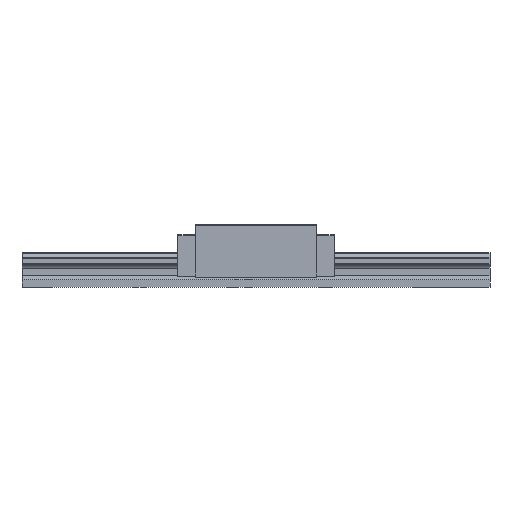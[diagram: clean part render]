
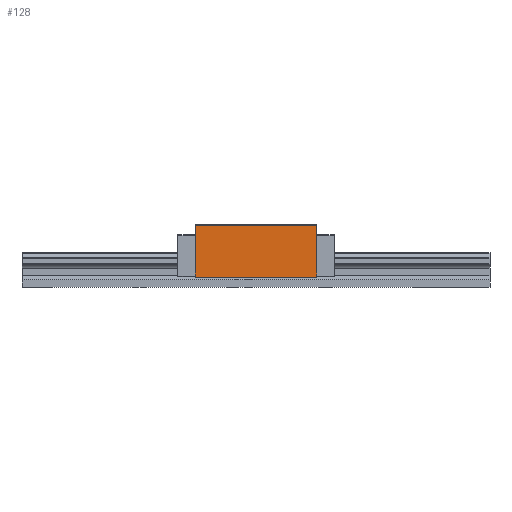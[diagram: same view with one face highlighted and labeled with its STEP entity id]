
A CAD part, front view. The second image highlights one B-rep face of the part: STEP entity #128.
In plain terms, the highlighted planar face has unit normal (0, -1, 0).
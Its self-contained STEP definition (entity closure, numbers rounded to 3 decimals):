
#128 = ADVANCED_FACE ( 'NONE', ( #2374 ), #3144, .F. ) ;
#189 = ORIENTED_EDGE ( 'NONE', *, *, #3442, .T. ) ;
#268 = ORIENTED_EDGE ( 'NONE', *, *, #1700, .F. ) ;
#292 = DIRECTION ( 'NONE',  ( -1., 0., 0. ) ) ;
#848 = VERTEX_POINT ( 'NONE', #4671 ) ;
#1141 = CARTESIAN_POINT ( 'NONE',  ( -78.05, -50., 80. ) ) ;
#1198 = DIRECTION ( 'NONE',  ( 0., 1., 0. ) ) ;
#1223 = LINE ( 'NONE', #3955, #1807 ) ;
#1574 = LINE ( 'NONE', #1141, #4351 ) ;
#1652 = EDGE_CURVE ( 'NONE', #2965, #4688, #1861, .T. ) ;
#1700 = EDGE_CURVE ( 'NONE', #2965, #2886, #1223, .T. ) ;
#1807 = VECTOR ( 'NONE', #2427, 1000. ) ;
#1858 = ORIENTED_EDGE ( 'NONE', *, *, #1652, .T. ) ;
#1861 = LINE ( 'NONE', #2658, #4205 ) ;
#2186 = CARTESIAN_POINT ( 'NONE',  ( 78.05, -50., 79.5 ) ) ;
#2220 = CARTESIAN_POINT ( 'NONE',  ( 78.05, -50., 13. ) ) ;
#2335 = DIRECTION ( 'NONE',  ( 0., 0., -1. ) ) ;
#2374 = FACE_OUTER_BOUND ( 'NONE', #2695, .T. ) ;
#2427 = DIRECTION ( 'NONE',  ( 0., 0., -1. ) ) ;
#2658 = CARTESIAN_POINT ( 'NONE',  ( 78.05, -50., 79.5 ) ) ;
#2695 = EDGE_LOOP ( 'NONE', ( #268, #1858, #189, #4162 ) ) ;
#2839 = VECTOR ( 'NONE', #3391, 1000. ) ;
#2886 = VERTEX_POINT ( 'NONE', #2220 ) ;
#2965 = VERTEX_POINT ( 'NONE', #2186 ) ;
#3144 = PLANE ( 'NONE',  #4522 ) ;
#3302 = LINE ( 'NONE', #4897, #2839 ) ;
#3319 = EDGE_CURVE ( 'NONE', #2886, #848, #3302, .T. ) ;
#3391 = DIRECTION ( 'NONE',  ( -1., 0., 0. ) ) ;
#3442 = EDGE_CURVE ( 'NONE', #4688, #848, #1574, .T. ) ;
#3496 = DIRECTION ( 'NONE',  ( 1., 0., 0. ) ) ;
#3690 = CARTESIAN_POINT ( 'NONE',  ( -78.05, -50., 79.5 ) ) ;
#3955 = CARTESIAN_POINT ( 'NONE',  ( 78.05, -50., 80. ) ) ;
#4162 = ORIENTED_EDGE ( 'NONE', *, *, #3319, .F. ) ;
#4205 = VECTOR ( 'NONE', #292, 1000. ) ;
#4351 = VECTOR ( 'NONE', #2335, 1000. ) ;
#4522 = AXIS2_PLACEMENT_3D ( 'NONE', #5073, #1198, #3496 ) ;
#4671 = CARTESIAN_POINT ( 'NONE',  ( -78.05, -50., 13. ) ) ;
#4688 = VERTEX_POINT ( 'NONE', #3690 ) ;
#4897 = CARTESIAN_POINT ( 'NONE',  ( 78.05, -50., 13. ) ) ;
#5073 = CARTESIAN_POINT ( 'NONE',  ( 78.05, -50., 80. ) ) ;
